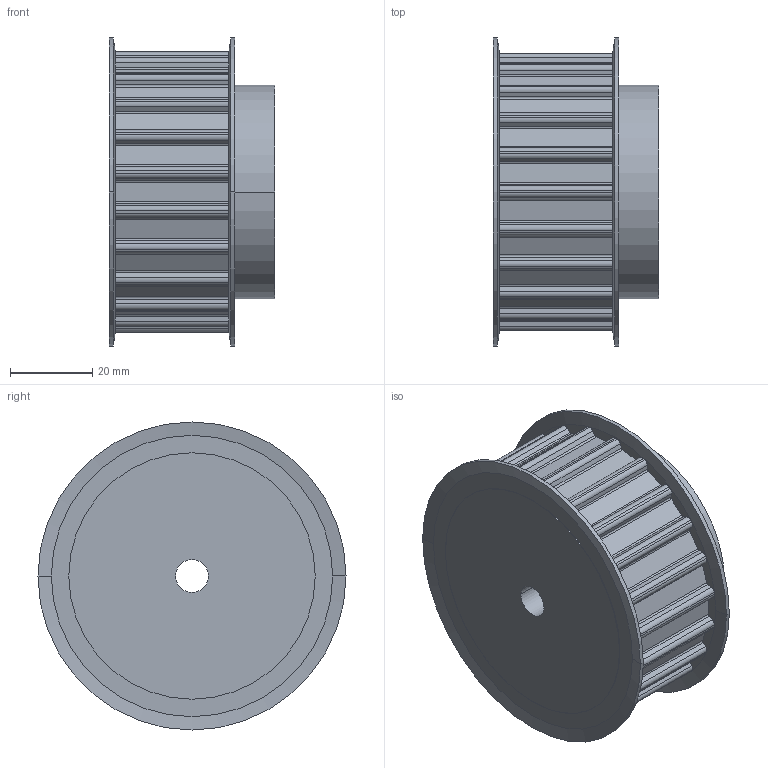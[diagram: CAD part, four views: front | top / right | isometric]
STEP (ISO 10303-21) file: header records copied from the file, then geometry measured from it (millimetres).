
FILE_DESCRIPTION( ( '' ), '1' );
FILE_NAME( 'C:/Users/Stangenbergd/Documents/CAD_Step/1/16832200.stp', '2021-10-19T09:45:31', ( '' ), ( '' ), ' ', ' ', ' ' );
FILE_SCHEMA( ( 'CONFIG_CONTROL_DESIGN' ) );
Length unit declared in the file: millimetre
Products named in the file (1): 1
Bounding box: 40.31 x 75 x 75 mm (x, y, z)
Volume: 120989.1 mm3; surface area: 21341.2 mm2
Topology: 1 solids, 1 shells, 203 faces, 580 edges, 384 vertices
Faces by surface type: cylinder 122, plane 73, cone 8
Entity records: 6770 total; most frequent: DIRECTION 1240, CARTESIAN_POINT 1168, ORIENTED_EDGE 1160, EDGE_CURVE 580, AXIS2_PLACEMENT_3D 456, VERTEX_POINT 384, LINE 328, VECTOR 328
